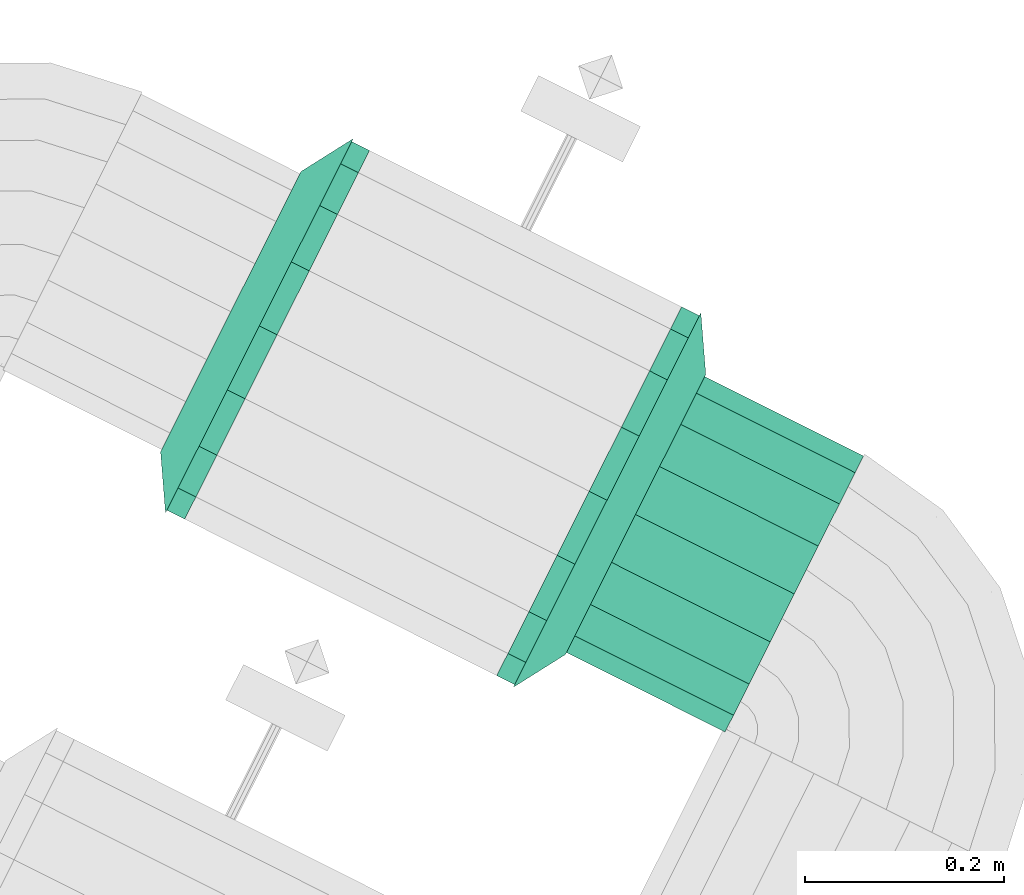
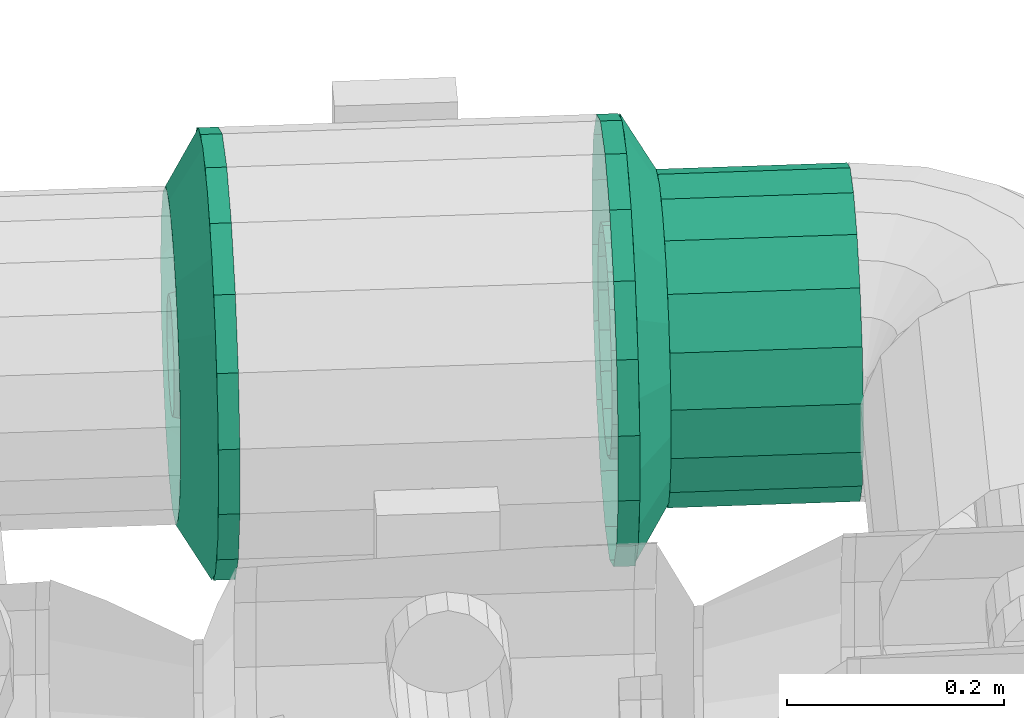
# One storey, part 35 of 152: 2 flow fittings, 1 flow segment.
"""IFC2X3 building model written with IfcOpenShell, lengths in metres."""

import ifcopenshell
import ifcopenshell.guid

model = None  # the IFC model being written
_history = None  # IfcOwnerHistory: only IFC2X3 demands one
_inside = {}  # id of a spatial element -> (the spatial element, [elements in it])
_under = {}  # id of a project, library or spatial element -> (it, [spatial elements below it])
_declared = {}  # id of a project -> (the project, [libraries it declares])
_typed = {}  # id of a type object -> (the type object, [elements of that type])
_made_of = {}  # id of a material, layer set ... -> (it, [elements and type objects made of it])


def new_model(schema):
    """Start an empty IFC model of exactly this schema.

    Asked for "IFC4X3", IfcOpenShell would pick the latest addendum, in which some entities
    have other attributes; the version numbers below select the first issue.
    IFC2X3 requires an IfcOwnerHistory on every rooted entity: one is made here for all.
    """
    global model, _history
    if schema == "IFC4X3":
        model = ifcopenshell.file(schema_version=(4, 3, 0, 0))
    else:
        model = ifcopenshell.file(schema=schema)
    _inside.clear()
    _under.clear()
    _declared.clear()
    _typed.clear()
    _made_of.clear()
    _history = None
    if model.schema == "IFC2X3":
        org = make("IfcOrganization", Name="unknown")
        user = make(
            "IfcPersonAndOrganization",
            ThePerson=make("IfcPerson", FamilyName="unknown"),
            TheOrganization=org,
        )
        app = make(
            "IfcApplication",
            ApplicationDeveloper=org,
            Version="unknown",
            ApplicationFullName="unknown",
            ApplicationIdentifier="unknown",
        )
        _history = make(
            "IfcOwnerHistory",
            OwningUser=user,
            OwningApplication=app,
            ChangeAction="ADDED",
            CreationDate=0,
        )
    return model


def make(cls, **values):
    """One entity of the class cls with the attributes given. An attribute that is None is left unset."""
    return model.create_entity(
        cls, **{name: value for name, value in values.items() if value is not None}
    )


def rooted(cls, **values):
    """An entity with a GlobalId (a new one), such as an element, a storey or a relation."""
    return make(cls, GlobalId=ifcopenshell.guid.new(), OwnerHistory=_history, **values)


def si_unit(unit_type, name, prefix=None):
    """IfcSIUnit, for example si_unit("LENGTHUNIT", "METRE", prefix="MILLI")."""
    return make("IfcSIUnit", UnitType=unit_type, Prefix=prefix, Name=name)


def derived_unit(unit_type, elements):
    """IfcDerivedUnit: a product of units, each with its exponent."""
    return make(
        "IfcDerivedUnit",
        Elements=[
            make("IfcDerivedUnitElement", Unit=unit, Exponent=power)
            for unit, power in elements
        ],
        UnitType=unit_type,
    )


def assignment(units):
    """IfcUnitAssignment: the units of a project."""
    return None if units is None else make("IfcUnitAssignment", Units=units)


def point(xyz):
    """IfcCartesianPoint."""
    return None if xyz is None else make("IfcCartesianPoint", Coordinates=xyz)


def direction(xyz):
    """IfcDirection."""
    return None if xyz is None else make("IfcDirection", DirectionRatios=xyz)


def frame(location, z_axis=None, x_axis=None):
    """IfcAxis2Placement3D, a coordinate frame: its origin and axes. An axis left out is left unset."""
    return make(
        "IfcAxis2Placement3D",
        Location=point(location),
        Axis=direction(z_axis),
        RefDirection=direction(x_axis),
    )


def origin():
    """The frame at (0, 0, 0) with its axes left unset."""
    return frame((0.0, 0.0, 0.0))


def place(relative_to, where):
    """IfcLocalPlacement: puts the frame where relative to a parent placement (None: the world)."""
    return make(
        "IfcLocalPlacement", PlacementRelTo=relative_to, RelativePlacement=where
    )


def context(
    kind, dimensions, precision=None, world=None, true_north=None, identifier=None
):
    """IfcGeometricRepresentationContext, for example the 3D "Model" context."""
    return make(
        "IfcGeometricRepresentationContext",
        ContextIdentifier=identifier,
        ContextType=kind,
        CoordinateSpaceDimension=dimensions,
        Precision=precision,
        WorldCoordinateSystem=world,
        TrueNorth=true_north,
    )


def subcontext(parent, identifier, kind, view, scale=None):
    """IfcGeometricRepresentationSubContext, for example "Body" below "Model"."""
    return make(
        "IfcGeometricRepresentationSubContext",
        ContextIdentifier=identifier,
        ContextType=kind,
        ParentContext=parent,
        TargetScale=scale,
        TargetView=view,
    )


def project(units=None, contexts=None):
    """IfcProject with its units and contexts."""
    return rooted(
        "IfcProject",
        Name="project",
        RepresentationContexts=contexts,
        UnitsInContext=assignment(units),
    )


def spatial(cls, under=None, at=None, **own):
    """A site, building, storey or space (cls), placed at a placement, below another one or the project."""
    s = rooted(cls, ObjectPlacement=at, **own)
    if under is not None:
        _under.setdefault(under.id(), (under, []))[1].append(s)
    return s


def faces_of(points, faces, orient=None, outer=None):
    """IfcFace entities. A face is a list of loops; a loop is a list of indices into points, from 0.

    orient and outer hold one flag for each loop. By default every Orientation is true, the
    first loop of a face is its IfcFaceOuterBound and the others are IfcFaceBound.
    """
    made = []
    for i, loops in enumerate(faces):
        bounds = []
        for j, loop in enumerate(loops):
            is_outer = j == 0 if outer is None else outer[i][j]
            bounds.append(
                make(
                    "IfcFaceOuterBound" if is_outer else "IfcFaceBound",
                    Bound=make("IfcPolyLoop", Polygon=[points[k] for k in loop]),
                    Orientation=True if orient is None else orient[i][j],
                )
            )
        made.append(make("IfcFace", Bounds=bounds))
    return made


def face_set(faces, orient=None, outer=None):
    """The faces of one IfcConnectedFaceSet. surface_model builds it on its shared points."""
    return ("IfcConnectedFaceSet", faces, orient, outer)


def surface_model(cls, points, shells):
    """IfcFaceBasedSurfaceModel or IfcShellBasedSurfaceModel (cls): surfaces that need not close."""
    shared = [point(p) for p in points]
    made = [make(c, CfsFaces=faces_of(shared, fs, o, b)) for c, fs, o, b in shells]
    if cls == "IfcFaceBasedSurfaceModel":
        return make(cls, FbsmFaces=made)
    return make(cls, SbsmBoundary=made)


def shape(context_of_items, identifier, shape_type, items):
    """IfcShapeRepresentation: the items that make up one representation, for example the "Body"."""
    return make(
        "IfcShapeRepresentation",
        ContextOfItems=context_of_items,
        RepresentationIdentifier=identifier,
        RepresentationType=shape_type,
        Items=items,
    )


def source(mapping_origin, context_of_items, identifier, shape_type, items):
    """IfcRepresentationMap: a shape defined once, which mapped items show again and again."""
    return make(
        "IfcRepresentationMap",
        MappingOrigin=mapping_origin,
        MappedRepresentation=shape(context_of_items, identifier, shape_type, items),
    )


def transform(
    local_origin,
    x_axis=None,
    y_axis=None,
    z_axis=None,
    scale=None,
    scale2=None,
    scale3=None,
    uniform=True,
):
    """IfcCartesianTransformationOperator3D, or its non-uniform kind. x_axis, y_axis, z_axis: its Axis1, 2, 3."""
    if uniform:
        return make(
            "IfcCartesianTransformationOperator3D",
            Axis1=direction(x_axis),
            Axis2=direction(y_axis),
            LocalOrigin=point(local_origin),
            Scale=scale,
            Axis3=direction(z_axis),
        )
    return make(
        "IfcCartesianTransformationOperator3DnonUniform",
        Axis1=direction(x_axis),
        Axis2=direction(y_axis),
        LocalOrigin=point(local_origin),
        Scale=scale,
        Axis3=direction(z_axis),
        Scale2=scale2,
        Scale3=scale3,
    )


def mapped(mapping_source, mapping_target):
    """IfcMappedItem: shows the shape of a source again, moved by a transform."""
    return make(
        "IfcMappedItem", MappingSource=mapping_source, MappingTarget=mapping_target
    )


def material(Name=None, Category=None):
    """IfcMaterial."""
    return make("IfcMaterial", Name=Name, Category=Category)


def made_of(thing, what):
    """Note that an element or type object is made of a material, layer set ...; save() writes the relation."""
    if what is not None:
        _made_of.setdefault(what.id(), (what, []))[1].append(thing)
    return thing


def type_object(cls, material=None, **own):
    """A type object (cls), such as IfcWallType, which elements share."""
    return made_of(rooted(cls, **own), material)


def type_shapes(of_type, sources):
    """Give a type object the sources (RepresentationMaps) that its elements show as mapped items."""
    of_type.RepresentationMaps = sources


def element(
    cls,
    number,
    at=None,
    inside=None,
    cuts=None,
    type_object=None,
    material=None,
    context=None,
    identifier="Body",
    shape_type=None,
    held_by="IfcProductDefinitionShape",
    body=None,
    shapes=None,
    **own,
):
    """One element of the class cls, such as IfcWall. Its Tag is "e" and its number.

    at: its placement. inside: the storey or other place that contains it. cuts: it is an
    opening in that element (IfcRelVoidsElement). A single representation is given by context,
    identifier, shape_type and body (its items); several are given by shapes. held_by: the class
    of the entity that holds the representations. save() writes the other relations.
    """
    e = rooted(cls, Tag="e%d" % number, ObjectPlacement=at, **own)
    if body is not None:
        shapes = [shape(context, identifier, shape_type, body)]
    if shapes is not None:
        e.Representation = make(held_by, Representations=shapes)
    if inside is not None:
        _inside.setdefault(inside.id(), (inside, []))[1].append(e)
    if cuts is not None:
        rooted(
            "IfcRelVoidsElement", RelatingBuildingElement=cuts, RelatedOpeningElement=e
        )
    if type_object is not None:
        _typed.setdefault(type_object.id(), (type_object, []))[1].append(e)
    return made_of(e, material)


def aggregate(whole, parts):
    """IfcRelAggregates: a whole, such as a stair, and the parts it consists of."""
    return rooted("IfcRelAggregates", RelatingObject=whole, RelatedObjects=parts)


def save(model, path):
    """Write the relations noted so far, then the file.

    IfcRelAggregates (storeys below a building ...), IfcRelContainedInSpatialStructure (elements
    in a storey), IfcRelDefinesByType, IfcRelAssociatesMaterial and IfcRelDeclares: one each for
    every whole, place, type object, material and project.
    """
    for whole, parts in _under.values():
        aggregate(whole, parts)
    for where, things in _inside.values():
        rooted(
            "IfcRelContainedInSpatialStructure",
            RelatedElements=things,
            RelatingStructure=where,
        )
    for kind, things in _typed.values():
        rooted("IfcRelDefinesByType", RelatedObjects=things, RelatingType=kind)
    for what, things in _made_of.values():
        rooted("IfcRelAssociatesMaterial", RelatedObjects=things, RelatingMaterial=what)
    for by, libraries in _declared.values():
        rooted("IfcRelDeclares", RelatingContext=by, RelatedDefinitions=libraries)
    model.write(path)


model = new_model("IFC2X3")

# Units and contexts
model_context = context("Model", 3, precision=5.2338327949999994e-05, world=origin(), true_north=direction((0.0, 1.0)))
body_context = subcontext(model_context, "Body", "Model", "MODEL_VIEW")
ifc_project = project(units=[si_unit("LENGTHUNIT", "METRE"), si_unit("AREAUNIT", "SQUARE_METRE"), si_unit("VOLUMEUNIT", "CUBIC_METRE"), si_unit("MASSUNIT", "GRAM", prefix="KILO"), si_unit("PLANEANGLEUNIT", "RADIAN"), derived_unit("THERMALTRANSMITTANCEUNIT", [(si_unit("MASSUNIT", "GRAM", prefix="KILO"), 1), (si_unit("THERMODYNAMICTEMPERATUREUNIT", "KELVIN"), -1), (si_unit("TIMEUNIT", "SECOND"), -3)])], contexts=[model_context])

# Site, building, storey
site_placement = place(None, frame((0.0, 0.0, 0.0), z_axis=(0.0, 0.0, 1.0), x_axis=(0.8939966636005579, -0.4480736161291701, 0.0)))
site = spatial("IfcSite", under=ifc_project, at=site_placement, Name="Default", CompositionType="ELEMENT")
building_placement = place(site_placement, origin())
building = spatial("IfcBuilding", under=site, at=building_placement, CompositionType="ELEMENT")
storey_placement = place(building_placement, frame((0.0, 0.0, 2.7499999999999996)))
storey = spatial("IfcBuildingStorey", under=building, at=storey_placement, Name="1. Obergeschoss", CompositionType="ELEMENT", Elevation=2.7499999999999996)

# Flow segment
ifc_material = material(Name="IfcSurfaceStyle #9317")
distribution_element_type_1 = type_object("IfcDistributionElementType", Name="Stahlrohr nach DIN 2448 267066:Stahlrohr nach DIN 2448 267066", material=ifc_material)
shared_shape_1 = source(origin(), body_context, "Body", "SurfaceModel", [
    surface_model("IfcFaceBasedSurfaceModel", [(13.497928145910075, 6.517424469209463, 5.578490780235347), (13.497928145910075, 6.497878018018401, 5.581937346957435), (13.319928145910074, 6.497878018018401, 5.581937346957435), (13.319928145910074, 6.517424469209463, 5.578490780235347), (13.497928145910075, 6.480689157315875, 5.5918613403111), (13.319928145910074, 6.480689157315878, 5.591861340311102), (13.497928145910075, 6.4679311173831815, 5.607065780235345), (13.319928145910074, 6.467931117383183, 5.60706578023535), (13.497928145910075, 6.461142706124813, 5.6257167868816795), (13.319928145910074, 6.461142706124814, 5.625716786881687), (13.497928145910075, 6.461142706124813, 5.645564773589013), (13.319928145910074, 6.461142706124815, 5.645564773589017), (13.497928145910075, 6.467931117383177, 5.6642157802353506), (13.319928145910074, 6.467931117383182, 5.6642157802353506), (13.497928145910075, 6.480689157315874, 5.679420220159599), (13.319928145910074, 6.480689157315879, 5.679420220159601), (13.497928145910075, 6.497878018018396, 5.689344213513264), (13.319928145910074, 6.497878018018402, 5.689344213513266), (13.497928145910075, 6.517424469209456, 5.692790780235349), (13.319928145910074, 6.517424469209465, 5.692790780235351), (13.497928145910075, 6.536970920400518, 5.689344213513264), (13.319928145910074, 6.536970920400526, 5.689344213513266), (13.497928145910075, 6.554159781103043, 5.679420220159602), (13.319928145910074, 6.554159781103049, 5.679420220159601), (13.497928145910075, 6.56691782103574, 5.664215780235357), (13.319928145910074, 6.566917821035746, 5.66421578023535), (13.497928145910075, 6.573706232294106, 5.645564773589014), (13.319928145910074, 6.5737062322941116, 5.645564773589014), (13.497928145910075, 6.573706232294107, 5.625716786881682), (13.319928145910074, 6.5737062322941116, 5.625716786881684), (13.497928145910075, 6.5669178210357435, 5.60706578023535), (13.319928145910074, 6.566917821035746, 5.607065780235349), (13.497928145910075, 6.554159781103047, 5.591861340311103), (13.319928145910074, 6.554159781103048, 5.5918613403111), (13.497928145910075, 6.536970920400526, 5.581937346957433), (13.319928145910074, 6.536970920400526, 5.581937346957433), (13.497928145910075, 6.51742446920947, 5.478490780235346), (13.497928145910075, 6.4636760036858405, 5.487968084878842), (13.319928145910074, 6.463676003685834, 5.487968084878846), (13.319928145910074, 6.517424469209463, 5.47849078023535), (13.497928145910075, 6.416410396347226, 5.515256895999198), (13.319928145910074, 6.416410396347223, 5.515256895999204), (13.497928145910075, 6.381328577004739, 5.557065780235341), (13.319928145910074, 6.381328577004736, 5.5570657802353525), (13.497928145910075, 6.362661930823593, 5.608351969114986), (13.319928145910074, 6.362661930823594, 5.608351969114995), (13.497928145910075, 6.362661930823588, 5.662929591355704), (13.319928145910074, 6.362661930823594, 5.662929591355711), (13.497928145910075, 6.381328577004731, 5.7142157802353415), (13.319928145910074, 6.38132857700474, 5.714215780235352), (13.497928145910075, 6.416410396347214, 5.75602466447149), (13.319928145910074, 6.416410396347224, 5.756024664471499), (13.497928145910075, 6.4636760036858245, 5.783313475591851), (13.319928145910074, 6.463676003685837, 5.783313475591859), (13.497928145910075, 6.517424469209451, 5.792790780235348), (13.319928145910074, 6.517424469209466, 5.792790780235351), (13.497928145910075, 6.571172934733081, 5.783313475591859), (13.319928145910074, 6.571172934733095, 5.783313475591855), (13.497928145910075, 6.618438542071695, 5.756024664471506), (13.319928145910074, 6.618438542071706, 5.7560246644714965), (13.497928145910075, 6.653520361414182, 5.714215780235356), (13.319928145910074, 6.653520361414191, 5.714215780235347), (13.497928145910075, 6.672187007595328, 5.6629295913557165), (13.319928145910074, 6.6721870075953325, 5.662929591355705), (13.497928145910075, 6.67218700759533, 5.608351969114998), (13.319928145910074, 6.6721870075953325, 5.608351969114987), (13.497928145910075, 6.6535203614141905, 5.557065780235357), (13.319928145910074, 6.653520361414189, 5.557065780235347), (13.497928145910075, 6.618438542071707, 5.515256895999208), (13.319928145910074, 6.6184385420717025, 5.5152568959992), (13.497928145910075, 6.571172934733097, 5.487968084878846), (13.319928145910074, 6.571172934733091, 5.487968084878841)], [face_set([[[0, 1, 2, 3]], [[1, 4, 5, 2]], [[4, 6, 7, 5]], [[6, 8, 9, 7]], [[8, 10, 11, 9]], [[10, 12, 13, 11]], [[12, 14, 15, 13]], [[14, 16, 17, 15]], [[16, 18, 19, 17]], [[18, 20, 21, 19]], [[20, 22, 23, 21]], [[22, 24, 25, 23]], [[24, 26, 27, 25]], [[26, 28, 29, 27]], [[28, 30, 31, 29]], [[30, 32, 33, 31]], [[32, 34, 35, 33]], [[34, 0, 3, 35]], [[36, 37, 38, 39]], [[37, 40, 41, 38]], [[40, 42, 43, 41]], [[42, 44, 45, 43]], [[44, 46, 47, 45]], [[46, 48, 49, 47]], [[48, 50, 51, 49]], [[50, 52, 53, 51]], [[52, 54, 55, 53]], [[54, 56, 57, 55]], [[56, 58, 59, 57]], [[58, 60, 61, 59]], [[60, 62, 63, 61]], [[62, 64, 65, 63]], [[64, 66, 67, 65]], [[66, 68, 69, 67]], [[68, 70, 71, 69]], [[70, 36, 39, 71]]])]),
])
type_shapes(distribution_element_type_1, [shared_shape_1])
flow_segment_placement = place(storey_placement, frame((0.0, 0.0, -2.7499999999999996)))
element("IfcFlowSegment", 1, at=flow_segment_placement, inside=storey, type_object=distribution_element_type_1, material=ifc_material, Name="Stahlrohr nach DIN 2448", ObjectType="Stahlrohr nach DIN 2448", context=body_context, shape_type="MappedRepresentation", body=[
    mapped(shared_shape_1, transform((0.0, 0.0, 0.0), scale=1.0)),
])

# Flow fittings
distribution_element_type_2 = type_object("IfcDistributionElementType", Name="Flansch 267347:Flansch 267347", material=ifc_material)
shared_shape_2 = source(origin(), body_context, "Body", "SurfaceModel", [
    surface_model("IfcFaceBasedSurfaceModel", [(13.319928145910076, 6.460274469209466, 5.635640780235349), (13.319928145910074, 6.463721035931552, 5.655187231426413), (13.287928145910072, 6.455874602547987, 5.65804309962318), (13.287928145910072, 6.451924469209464, 5.63564078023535), (13.319928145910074, 6.473645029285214, 5.672376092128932), (13.28792814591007, 6.467248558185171, 5.677743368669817), (13.31992814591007, 6.488849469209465, 5.68513413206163), (13.28792814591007, 6.484674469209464, 5.6923654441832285), (13.319928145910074, 6.5075004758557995, 5.691922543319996), (13.28792814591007, 6.506050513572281, 5.700145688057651), (13.319928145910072, 6.527348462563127, 5.69192254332), (13.28792814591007, 6.528798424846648, 5.700145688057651), (13.319928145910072, 6.545999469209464, 5.685134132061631), (13.28792814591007, 6.550174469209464, 5.692365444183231), (13.319928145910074, 6.561203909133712, 5.6723760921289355), (13.28792814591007, 6.567600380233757, 5.67774336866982), (13.319928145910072, 6.571127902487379, 5.655187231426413), (13.28792814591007, 6.578974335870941, 5.658043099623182), (13.319928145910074, 6.5745744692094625, 5.6356407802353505), (13.28792814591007, 6.582924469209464, 5.635640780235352), (13.319928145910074, 6.571127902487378, 5.616094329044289), (13.287928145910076, 6.578974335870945, 5.613238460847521), (13.319928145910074, 6.5612039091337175, 5.598905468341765), (13.287928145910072, 6.5676003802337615, 5.593538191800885), (13.319928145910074, 6.545999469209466, 5.58614742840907), (13.287928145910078, 6.550174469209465, 5.578916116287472), (13.319928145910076, 6.527348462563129, 5.579359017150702), (13.287928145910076, 6.528798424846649, 5.571135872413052), (13.319928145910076, 6.5075004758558, 5.579359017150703), (13.287928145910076, 6.506050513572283, 5.57113587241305), (13.319928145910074, 6.488849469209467, 5.586147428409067), (13.287928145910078, 6.484674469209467, 5.578916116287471), (13.319928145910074, 6.4736450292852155, 5.598905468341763), (13.287928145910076, 6.467248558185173, 5.5935381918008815), (13.319928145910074, 6.463721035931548, 5.6160943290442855), (13.287928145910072, 6.455874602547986, 5.613238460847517), (13.28792814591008, 6.517424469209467, 5.525640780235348), (13.28792814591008, 6.479802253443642, 5.532274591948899), (13.267928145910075, 6.479802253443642, 5.532274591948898), (13.267928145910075, 6.517424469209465, 5.5256407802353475), (13.28792814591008, 6.446717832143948, 5.5513758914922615), (13.267928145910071, 6.446717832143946, 5.5513758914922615), (13.287928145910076, 6.422161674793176, 5.580640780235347), (13.267928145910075, 6.422161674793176, 5.580640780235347), (13.287928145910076, 6.4090956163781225, 5.616539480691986), (13.267928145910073, 6.4090956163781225, 5.616539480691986), (13.287928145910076, 6.4090956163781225, 5.6547420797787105), (13.267928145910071, 6.409095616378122, 5.6547420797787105), (13.28792814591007, 6.422161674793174, 5.690640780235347), (13.267928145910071, 6.422161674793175, 5.690640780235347), (13.28792814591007, 6.446717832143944, 5.719905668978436), (13.267928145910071, 6.446717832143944, 5.719905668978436), (13.28792814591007, 6.479802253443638, 5.739006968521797), (13.267928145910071, 6.479802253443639, 5.739006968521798), (13.287928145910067, 6.517424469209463, 5.745640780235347), (13.267928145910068, 6.517424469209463, 5.745640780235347), (13.287928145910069, 6.555046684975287, 5.7390069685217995), (13.26792814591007, 6.555046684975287, 5.7390069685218), (13.28792814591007, 6.588131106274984, 5.719905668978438), (13.267928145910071, 6.588131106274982, 5.7199056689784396), (13.28792814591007, 6.612687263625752, 5.69064078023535), (13.267928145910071, 6.612687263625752, 5.69064078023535), (13.28792814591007, 6.625753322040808, 5.654742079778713), (13.267928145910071, 6.625753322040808, 5.654742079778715), (13.287928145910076, 6.62575332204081, 5.61653948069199), (13.267928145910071, 6.62575332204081, 5.616539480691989), (13.287928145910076, 6.612687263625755, 5.580640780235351), (13.267928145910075, 6.612687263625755, 5.580640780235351), (13.28792814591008, 6.588131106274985, 5.551375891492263), (13.267928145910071, 6.588131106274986, 5.551375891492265), (13.28792814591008, 6.555046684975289, 5.532274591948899), (13.267928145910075, 6.55504668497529, 5.532274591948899), (13.28792814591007, 6.517424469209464, 5.635640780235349), (13.319928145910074, 6.360274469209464, 5.635640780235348), (13.319928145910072, 6.369751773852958, 5.689389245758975), (13.287928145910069, 6.320089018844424, 5.7074650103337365), (13.287928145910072, 6.307424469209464, 5.635640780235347), (13.31992814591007, 6.3970405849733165, 5.736654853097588), (13.287928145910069, 6.356555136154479, 5.770626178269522), (13.31992814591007, 6.438849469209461, 5.771736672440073), (13.287928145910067, 6.412424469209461, 5.81750611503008), (13.319928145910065, 6.490135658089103, 5.790403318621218), (13.287928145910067, 6.480958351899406, 5.842450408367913), (13.31992814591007, 6.54471328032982, 5.790403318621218), (13.287928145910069, 6.553890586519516, 5.842450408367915), (13.31992814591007, 6.5959994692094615, 5.771736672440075), (13.287928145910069, 6.622424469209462, 5.817506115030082), (13.31992814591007, 6.637808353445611, 5.736654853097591), (13.287928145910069, 6.678293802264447, 5.7706261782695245), (13.319928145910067, 6.665097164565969, 5.689389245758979), (13.28792814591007, 6.714759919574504, 5.707465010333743), (13.319928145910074, 6.674574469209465, 5.635640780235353), (13.287928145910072, 6.727424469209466, 5.635640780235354), (13.319928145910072, 6.665097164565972, 5.581892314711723), (13.287928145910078, 6.714759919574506, 5.563816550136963), (13.319928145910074, 6.637808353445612, 5.534626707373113), (13.28792814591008, 6.6782938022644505, 5.50065538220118), (13.319928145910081, 6.595999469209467, 5.499544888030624), (13.28792814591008, 6.622424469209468, 5.45377544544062), (13.31992814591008, 6.544713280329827, 5.4808782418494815), (13.28792814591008, 6.553890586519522, 5.428831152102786), (13.31992814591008, 6.490135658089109, 5.4808782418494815), (13.28792814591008, 6.480958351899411, 5.428831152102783), (13.319928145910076, 6.438849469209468, 5.4995448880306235), (13.287928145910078, 6.412424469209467, 5.453775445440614), (13.319928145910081, 6.397040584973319, 5.534626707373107), (13.287928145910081, 6.356555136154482, 5.500655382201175), (13.319928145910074, 6.36975177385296, 5.58189231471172), (13.287928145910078, 6.320089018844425, 5.563816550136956), (13.287928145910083, 6.517424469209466, 5.425640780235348), (13.28792814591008, 6.445600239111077, 5.438305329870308), (13.26792814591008, 6.445600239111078, 5.438305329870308), (13.267928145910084, 6.517424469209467, 5.425640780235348), (13.28792814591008, 6.382439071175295, 5.474771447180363), (13.26792814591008, 6.382439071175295, 5.474771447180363), (13.28792814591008, 6.3355591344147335, 5.530640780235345), (13.267928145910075, 6.335559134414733, 5.530640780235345), (13.287928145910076, 6.310614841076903, 5.59917466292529), (13.267928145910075, 6.3106148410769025, 5.59917466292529), (13.287928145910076, 6.310614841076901, 5.6721068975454), (13.267928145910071, 6.310614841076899, 5.672106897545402), (13.28792814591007, 6.335559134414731, 5.740640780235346), (13.267928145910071, 6.335559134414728, 5.740640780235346), (13.28792814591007, 6.382439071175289, 5.796510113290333), (13.267928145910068, 6.382439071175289, 5.796510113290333), (13.287928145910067, 6.445600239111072, 5.832976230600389), (13.267928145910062, 6.445600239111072, 5.832976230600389), (13.287928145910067, 6.517424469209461, 5.84564078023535), (13.267928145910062, 6.517424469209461, 5.84564078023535), (13.287928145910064, 6.589248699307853, 5.832976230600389), (13.267928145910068, 6.589248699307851, 5.83297623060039), (13.287928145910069, 6.652409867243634, 5.796510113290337), (13.267928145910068, 6.652409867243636, 5.796510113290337), (13.287928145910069, 6.699289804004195, 5.740640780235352), (13.26792814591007, 6.699289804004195, 5.740640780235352), (13.28792814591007, 6.724234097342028, 5.672106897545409), (13.267928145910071, 6.724234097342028, 5.672106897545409), (13.287928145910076, 6.72423409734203, 5.599174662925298), (13.267928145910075, 6.72423409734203, 5.599174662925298), (13.287928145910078, 6.699289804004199, 5.530640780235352), (13.267928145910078, 6.699289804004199, 5.530640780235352), (13.28792814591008, 6.65240986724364, 5.474771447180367), (13.26792814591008, 6.652409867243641, 5.474771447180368), (13.28792814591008, 6.589248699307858, 5.438305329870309), (13.26792814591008, 6.589248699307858, 5.438305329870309)], [face_set([[[0, 1, 2, 3]], [[1, 4, 5, 2]], [[4, 6, 7, 5]], [[6, 8, 9, 7]], [[8, 10, 11, 9]], [[10, 12, 13, 11]], [[12, 14, 15, 13]], [[14, 16, 17, 15]], [[16, 18, 19, 17]], [[18, 20, 21, 19]], [[20, 22, 23, 21]], [[22, 24, 25, 23]], [[24, 26, 27, 25]], [[26, 28, 29, 27]], [[28, 30, 31, 29]], [[30, 32, 33, 31]], [[32, 34, 35, 33]], [[34, 0, 3, 35]], [[36, 37, 38, 39]], [[37, 40, 41, 38]], [[40, 42, 43, 41]], [[42, 44, 45, 43]], [[44, 46, 47, 45]], [[46, 48, 49, 47]], [[48, 50, 51, 49]], [[50, 52, 53, 51]], [[52, 54, 55, 53]], [[54, 56, 57, 55]], [[56, 58, 59, 57]], [[58, 60, 61, 59]], [[60, 62, 63, 61]], [[62, 64, 65, 63]], [[64, 66, 67, 65]], [[66, 68, 69, 67]], [[68, 70, 71, 69]], [[70, 36, 39, 71]], [[72, 37, 36]], [[72, 40, 37]], [[72, 42, 40]], [[72, 44, 42]], [[72, 46, 44]], [[72, 48, 46]], [[72, 50, 48]], [[72, 52, 50]], [[72, 54, 52]], [[72, 56, 54]], [[72, 58, 56]], [[72, 60, 58]], [[72, 62, 60]], [[72, 64, 62]], [[72, 66, 64]], [[72, 68, 66]], [[72, 70, 68]], [[72, 36, 70]], [[73, 74, 75, 76]], [[74, 77, 78, 75]], [[77, 79, 80, 78]], [[79, 81, 82, 80]], [[81, 83, 84, 82]], [[83, 85, 86, 84]], [[85, 87, 88, 86]], [[87, 89, 90, 88]], [[89, 91, 92, 90]], [[91, 93, 94, 92]], [[93, 95, 96, 94]], [[95, 97, 98, 96]], [[97, 99, 100, 98]], [[99, 101, 102, 100]], [[101, 103, 104, 102]], [[103, 105, 106, 104]], [[105, 107, 108, 106]], [[107, 73, 76, 108]], [[109, 110, 111, 112]], [[110, 113, 114, 111]], [[113, 115, 116, 114]], [[115, 117, 118, 116]], [[117, 119, 120, 118]], [[119, 121, 122, 120]], [[121, 123, 124, 122]], [[123, 125, 126, 124]], [[125, 127, 128, 126]], [[127, 129, 130, 128]], [[129, 131, 132, 130]], [[131, 133, 134, 132]], [[133, 135, 136, 134]], [[135, 137, 138, 136]], [[137, 139, 140, 138]], [[139, 141, 142, 140]], [[141, 143, 144, 142]], [[143, 109, 112, 144]]])]),
])
type_shapes(distribution_element_type_2, [shared_shape_2])
flow_fitting_1_placement = place(storey_placement, frame((0.0, 0.0, -2.7499999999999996)))
element("IfcFlowFitting", 2, at=flow_fitting_1_placement, inside=storey, type_object=distribution_element_type_2, material=ifc_material, Name="Flansch", ObjectType="Flansch", context=body_context, shape_type="MappedRepresentation", body=[
    mapped(shared_shape_2, transform((0.0, 0.0, 0.0), scale=1.0)),
])
distribution_element_type_3 = type_object("IfcDistributionElementType", Name="Flansch 267399:Flansch 267399", material=ifc_material)
shared_shape_3 = source(origin(), body_context, "Body", "SurfaceModel", [
    surface_model("IfcFaceBasedSurfaceModel", [(12.917928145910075, 6.517424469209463, 5.525640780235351), (12.917928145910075, 6.479802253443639, 5.532274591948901), (12.897928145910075, 6.479802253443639, 5.532274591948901), (12.897928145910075, 6.517424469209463, 5.525640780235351), (12.917928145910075, 6.446717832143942, 5.551375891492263), (12.897928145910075, 6.446717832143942, 5.551375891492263), (12.917928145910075, 6.422161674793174, 5.580640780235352), (12.897928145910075, 6.422161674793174, 5.580640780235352), (12.917928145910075, 6.4090956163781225, 5.616539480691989), (12.897928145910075, 6.4090956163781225, 5.616539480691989), (12.917928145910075, 6.409095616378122, 5.654742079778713), (12.897928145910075, 6.409095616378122, 5.654742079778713), (12.917928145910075, 6.422161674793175, 5.690640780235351), (12.897928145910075, 6.422161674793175, 5.690640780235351), (12.917928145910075, 6.446717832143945, 5.719905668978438), (12.897928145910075, 6.446717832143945, 5.719905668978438), (12.917928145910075, 6.4798022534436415, 5.7390069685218), (12.897928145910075, 6.4798022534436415, 5.7390069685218), (12.917928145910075, 6.517424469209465, 5.745640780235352), (12.897928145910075, 6.517424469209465, 5.745640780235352), (12.917928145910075, 6.555046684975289, 5.7390069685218), (12.897928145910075, 6.555046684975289, 5.7390069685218), (12.917928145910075, 6.588131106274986, 5.719905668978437), (12.897928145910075, 6.588131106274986, 5.719905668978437), (12.917928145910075, 6.612687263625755, 5.69064078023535), (12.897928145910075, 6.612687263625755, 5.69064078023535), (12.917928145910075, 6.625753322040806, 5.654742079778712), (12.897928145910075, 6.625753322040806, 5.654742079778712), (12.917928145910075, 6.625753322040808, 5.616539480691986), (12.897928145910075, 6.625753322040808, 5.616539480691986), (12.917928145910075, 6.612687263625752, 5.580640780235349), (12.897928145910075, 6.612687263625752, 5.580640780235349), (12.917928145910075, 6.588131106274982, 5.551375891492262), (12.897928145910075, 6.588131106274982, 5.551375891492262), (12.917928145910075, 6.555046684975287, 5.5322745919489), (12.897928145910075, 6.555046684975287, 5.5322745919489), (12.897928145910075, 6.517424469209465, 5.63564078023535), (12.897928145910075, 6.451924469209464, 5.6356407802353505), (12.897928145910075, 6.455874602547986, 5.658043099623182), (12.865928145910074, 6.463721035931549, 5.655187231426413), (12.865928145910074, 6.460274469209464, 5.63564078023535), (12.897928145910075, 6.467248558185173, 5.6777433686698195), (12.865928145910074, 6.473645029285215, 5.672376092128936), (12.897928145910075, 6.484674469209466, 5.692365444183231), (12.865928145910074, 6.488849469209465, 5.685134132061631), (12.897928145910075, 6.506050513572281, 5.700145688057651), (12.865928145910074, 6.5075004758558, 5.691922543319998), (12.897928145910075, 6.528798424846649, 5.70014568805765), (12.865928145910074, 6.52734846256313, 5.691922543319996), (12.897928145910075, 6.550174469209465, 5.692365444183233), (12.865928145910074, 6.545999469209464, 5.685134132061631), (12.897928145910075, 6.567600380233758, 5.677743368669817), (12.865928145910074, 6.561203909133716, 5.672376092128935), (12.897928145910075, 6.57897433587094, 5.658043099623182), (12.865928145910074, 6.5711279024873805, 5.655187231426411), (12.897928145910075, 6.582924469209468, 5.63564078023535), (12.865928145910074, 6.574574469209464, 5.635640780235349), (12.897928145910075, 6.57897433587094, 5.613238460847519), (12.865928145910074, 6.571127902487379, 5.616094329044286), (12.897928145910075, 6.567600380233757, 5.593538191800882), (12.865928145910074, 6.561203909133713, 5.598905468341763), (12.897928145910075, 6.550174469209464, 5.578916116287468), (12.865928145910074, 6.5459994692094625, 5.5861474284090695), (12.897928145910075, 6.528798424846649, 5.571135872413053), (12.865928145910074, 6.527348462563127, 5.579359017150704), (12.897928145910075, 6.506050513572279, 5.571135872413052), (12.865928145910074, 6.507500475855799, 5.579359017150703), (12.897928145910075, 6.484674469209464, 5.578916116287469), (12.865928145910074, 6.488849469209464, 5.58614742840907), (12.897928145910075, 6.467248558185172, 5.593538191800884), (12.865928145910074, 6.473645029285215, 5.598905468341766), (12.897928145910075, 6.455874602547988, 5.613238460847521), (12.865928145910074, 6.46372103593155, 5.616094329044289), (12.917928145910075, 6.517424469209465, 5.42564078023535), (12.917928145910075, 6.445600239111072, 5.43830532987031), (12.897928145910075, 6.445600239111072, 5.43830532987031), (12.897928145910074, 6.517424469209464, 5.42564078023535), (12.917928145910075, 6.382439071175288, 5.474771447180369), (12.897928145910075, 6.382439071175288, 5.474771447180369), (12.917928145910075, 6.335559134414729, 5.530640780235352), (12.897928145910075, 6.335559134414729, 5.530640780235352), (12.917928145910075, 6.310614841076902, 5.599174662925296), (12.897928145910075, 6.310614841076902, 5.599174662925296), (12.917928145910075, 6.310614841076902, 5.672106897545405), (12.897928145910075, 6.310614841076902, 5.672106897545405), (12.917928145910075, 6.3355591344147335, 5.740640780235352), (12.897928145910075, 6.3355591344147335, 5.740640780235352), (12.917928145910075, 6.382439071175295, 5.796510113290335), (12.897928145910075, 6.382439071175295, 5.796510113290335), (12.917928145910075, 6.4456002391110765, 5.83297623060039), (12.897928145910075, 6.4456002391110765, 5.83297623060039), (12.917928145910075, 6.517424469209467, 5.84564078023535), (12.897928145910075, 6.517424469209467, 5.84564078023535), (12.917928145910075, 6.589248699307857, 5.832976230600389), (12.897928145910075, 6.589248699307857, 5.832976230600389), (12.917928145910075, 6.65240986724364, 5.796510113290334), (12.897928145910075, 6.65240986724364, 5.796510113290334), (12.917928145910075, 6.699289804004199, 5.740640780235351), (12.897928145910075, 6.699289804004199, 5.740640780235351), (12.917928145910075, 6.724234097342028, 5.672106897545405), (12.897928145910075, 6.724234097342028, 5.672106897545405), (12.917928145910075, 6.724234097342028, 5.599174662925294), (12.897928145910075, 6.724234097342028, 5.599174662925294), (12.917928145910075, 6.699289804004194, 5.53064078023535), (12.897928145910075, 6.699289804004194, 5.53064078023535), (12.917928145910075, 6.652409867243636, 5.474771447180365), (12.897928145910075, 6.652409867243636, 5.474771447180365), (12.917928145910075, 6.589248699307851, 5.4383053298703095), (12.897928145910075, 6.589248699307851, 5.4383053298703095), (12.897928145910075, 6.307424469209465, 5.635640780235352), (12.897928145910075, 6.320089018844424, 5.707465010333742), (12.865928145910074, 6.3697517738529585, 5.689389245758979), (12.865928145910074, 6.360274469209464, 5.63564078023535), (12.897928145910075, 6.356555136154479, 5.770626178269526), (12.865928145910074, 6.397040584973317, 5.73665485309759), (12.897928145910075, 6.4124244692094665, 5.817506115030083), (12.865928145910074, 6.438849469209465, 5.771736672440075), (12.897928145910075, 6.480958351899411, 5.842450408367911), (12.865928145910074, 6.490135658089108, 5.790403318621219), (12.897928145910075, 6.553890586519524, 5.842450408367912), (12.865928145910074, 6.544713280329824, 5.790403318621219), (12.897928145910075, 6.6224244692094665, 5.817506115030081), (12.865928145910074, 6.595999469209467, 5.771736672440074), (12.897928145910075, 6.6782938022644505, 5.770626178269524), (12.865928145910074, 6.637808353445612, 5.736654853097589), (12.897928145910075, 6.714759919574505, 5.707465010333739), (12.865928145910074, 6.665097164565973, 5.689389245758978), (12.897928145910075, 6.727424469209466, 5.63564078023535), (12.865928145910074, 6.674574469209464, 5.635640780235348), (12.897928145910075, 6.714759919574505, 5.563816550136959), (12.865928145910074, 6.665097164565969, 5.58189231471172), (12.897928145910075, 6.678293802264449, 5.500655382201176), (12.865928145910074, 6.63780835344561, 5.534626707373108), (12.897928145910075, 6.622424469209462, 5.453775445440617), (12.865928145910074, 6.595999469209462, 5.4995448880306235), (12.897928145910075, 6.553890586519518, 5.428831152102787), (12.865928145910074, 6.54471328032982, 5.4808782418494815), (12.897928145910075, 6.480958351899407, 5.428831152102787), (12.865928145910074, 6.490135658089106, 5.4808782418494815), (12.897928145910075, 6.412424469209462, 5.45377544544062), (12.865928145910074, 6.4388494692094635, 5.499544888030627), (12.897928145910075, 6.356555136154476, 5.500655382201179), (12.865928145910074, 6.397040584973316, 5.534626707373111), (12.897928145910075, 6.320089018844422, 5.563816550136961), (12.865928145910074, 6.369751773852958, 5.5818923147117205)], [face_set([[[0, 1, 2, 3]], [[1, 4, 5, 2]], [[4, 6, 7, 5]], [[6, 8, 9, 7]], [[8, 10, 11, 9]], [[10, 12, 13, 11]], [[12, 14, 15, 13]], [[14, 16, 17, 15]], [[16, 18, 19, 17]], [[18, 20, 21, 19]], [[20, 22, 23, 21]], [[22, 24, 25, 23]], [[24, 26, 27, 25]], [[26, 28, 29, 27]], [[28, 30, 31, 29]], [[30, 32, 33, 31]], [[32, 34, 35, 33]], [[34, 0, 3, 35]], [[36, 35, 3]], [[36, 33, 35]], [[36, 31, 33]], [[36, 29, 31]], [[36, 27, 29]], [[36, 25, 27]], [[36, 23, 25]], [[36, 21, 23]], [[36, 19, 21]], [[36, 17, 19]], [[36, 15, 17]], [[36, 13, 15]], [[36, 11, 13]], [[36, 9, 11]], [[36, 7, 9]], [[36, 5, 7]], [[36, 2, 5]], [[36, 3, 2]], [[37, 38, 39, 40]], [[38, 41, 42, 39]], [[41, 43, 44, 42]], [[43, 45, 46, 44]], [[45, 47, 48, 46]], [[47, 49, 50, 48]], [[49, 51, 52, 50]], [[51, 53, 54, 52]], [[53, 55, 56, 54]], [[55, 57, 58, 56]], [[57, 59, 60, 58]], [[59, 61, 62, 60]], [[61, 63, 64, 62]], [[63, 65, 66, 64]], [[65, 67, 68, 66]], [[67, 69, 70, 68]], [[69, 71, 72, 70]], [[71, 37, 40, 72]], [[73, 74, 75, 76]], [[74, 77, 78, 75]], [[77, 79, 80, 78]], [[79, 81, 82, 80]], [[81, 83, 84, 82]], [[83, 85, 86, 84]], [[85, 87, 88, 86]], [[87, 89, 90, 88]], [[89, 91, 92, 90]], [[91, 93, 94, 92]], [[93, 95, 96, 94]], [[95, 97, 98, 96]], [[97, 99, 100, 98]], [[99, 101, 102, 100]], [[101, 103, 104, 102]], [[103, 105, 106, 104]], [[105, 107, 108, 106]], [[107, 73, 76, 108]], [[109, 110, 111, 112]], [[110, 113, 114, 111]], [[113, 115, 116, 114]], [[115, 117, 118, 116]], [[117, 119, 120, 118]], [[119, 121, 122, 120]], [[121, 123, 124, 122]], [[123, 125, 126, 124]], [[125, 127, 128, 126]], [[127, 129, 130, 128]], [[129, 131, 132, 130]], [[131, 133, 134, 132]], [[133, 135, 136, 134]], [[135, 137, 138, 136]], [[137, 139, 140, 138]], [[139, 141, 142, 140]], [[141, 143, 144, 142]], [[143, 109, 112, 144]]])]),
])
type_shapes(distribution_element_type_3, [shared_shape_3])
flow_fitting_2_placement = place(storey_placement, frame((0.0, 0.0, -2.7499999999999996)))
element("IfcFlowFitting", 3, at=flow_fitting_2_placement, inside=storey, type_object=distribution_element_type_3, material=ifc_material, Name="Flansch", ObjectType="Flansch", context=body_context, shape_type="MappedRepresentation", body=[
    mapped(shared_shape_3, transform((0.0, 0.0, 0.0), scale=1.0)),
])

save(model, "model.ifc")
